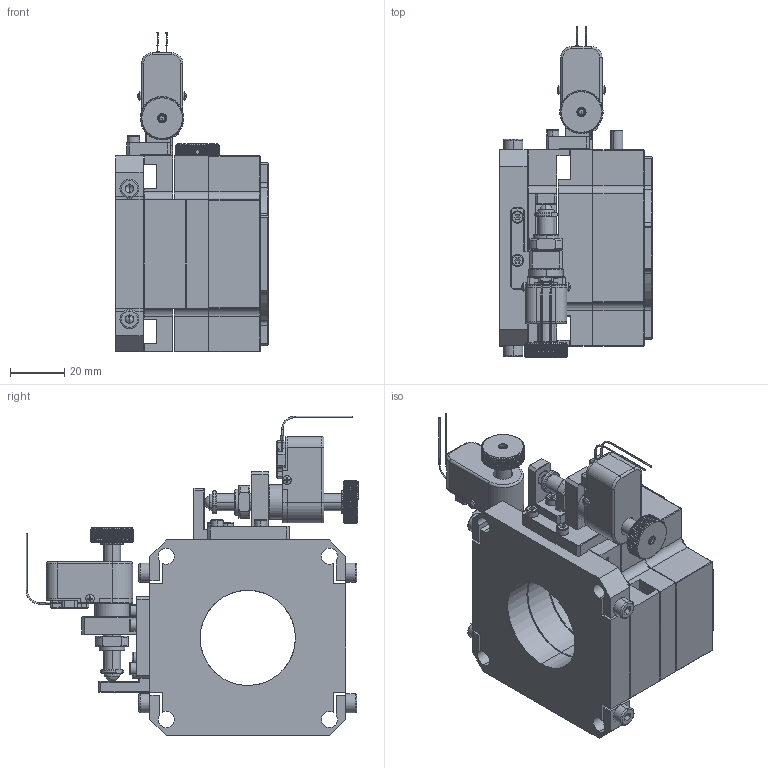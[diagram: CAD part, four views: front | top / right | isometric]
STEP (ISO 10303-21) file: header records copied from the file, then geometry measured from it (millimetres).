
FILE_DESCRIPTION (( 'STEP AP203' ), '1' );
FILE_NAME ('XYZ72SN81K13-B2-21.11.19.STEP', '2021-11-19T07:10:48', ( '' ), ( '' ), 'SwSTEP 2.0', 'SolidWorks 2016', '' );
FILE_SCHEMA (( 'CONFIG_CONTROL_DESIGN' ));
Products named in the file (1): XYZ72SN81K13-B2-21.11.19
Bounding box: 56 x 122.02 x 117.52 mm (x, y, z)
Surface area: 69199.5 mm2 (no closed solid volume)
Topology: 0 solids, 77 shells, 1526 faces, 5100 edges, 3513 vertices
Faces by surface type: plane 780, cylinder 523, cone 171, torus 40, sphere 12
Entity records: 60336 total; most frequent: CARTESIAN_POINT 17514, DIRECTION 8575, ORIENTED_EDGE 8474, EDGE_CURVE 5068, VERTEX_POINT 3507, AXIS2_PLACEMENT_3D 2966, VECTOR 2643, LINE 2643
